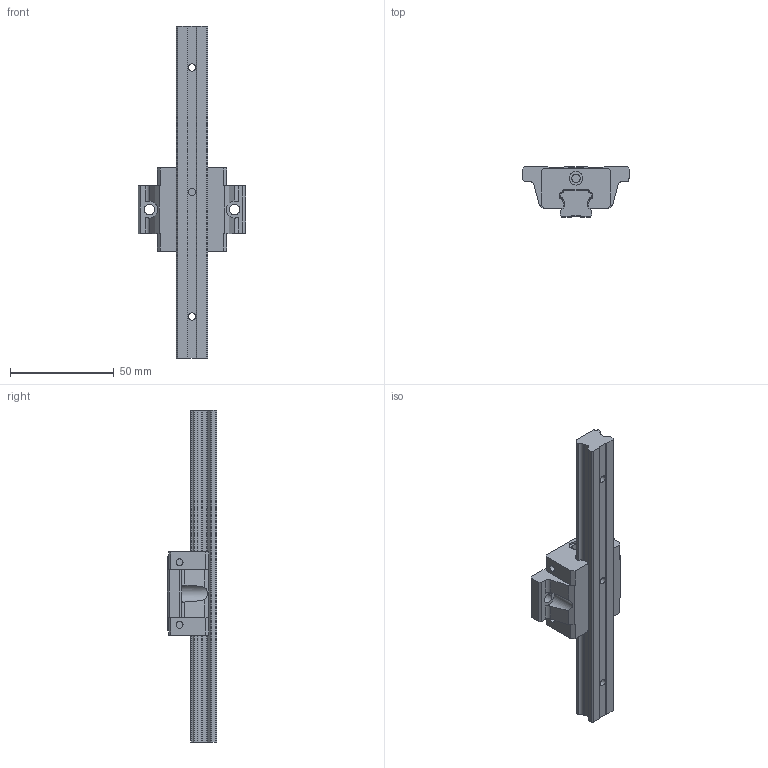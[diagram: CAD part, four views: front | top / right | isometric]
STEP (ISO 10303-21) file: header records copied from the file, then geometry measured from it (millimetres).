
FILE_DESCRIPTION((''),'2;1');
FILE_NAME('QEW15SA_ASM','2008-07-11T',('brianyu'),(''),'PRO/ENGINEER BY PARAMETRIC TECHNOLOGY CORPORATION, 2004360','PRO/ENGINEER BY PARAMETRIC TECHNOLOGY CORPORATION, 2004360','');
FILE_SCHEMA(('CONFIG_CONTROL_DESIGN'));
Length unit declared in the file: millimetre
Products named in the file (4): QEW15SA_BLOCK; QER15_RAIL; QEW15SA_ASM_ASM; QEW15SA_ASM
Assembly tree (3 placements, depth 3):
  QEW15SA_ASM
    QEW15SA_ASM_ASM
      QEW15SA_BLOCK
      QER15_RAIL
Bounding box: 52 x 24 x 160 mm (x, y, z)
Volume: 50714.8 mm3; surface area: 17655.7 mm2
Topology: 2 solids, 2 shells, 224 faces, 693 edges, 488 vertices
Faces by surface type: plane 116, cylinder 108
Entity records: 8080 total; most frequent: CARTESIAN_POINT 1479, ORIENTED_EDGE 1386, DIRECTION 1377, EDGE_CURVE 693, VERTEX_POINT 488, AXIS2_PLACEMENT_3D 461, VECTOR 455, LINE 455
